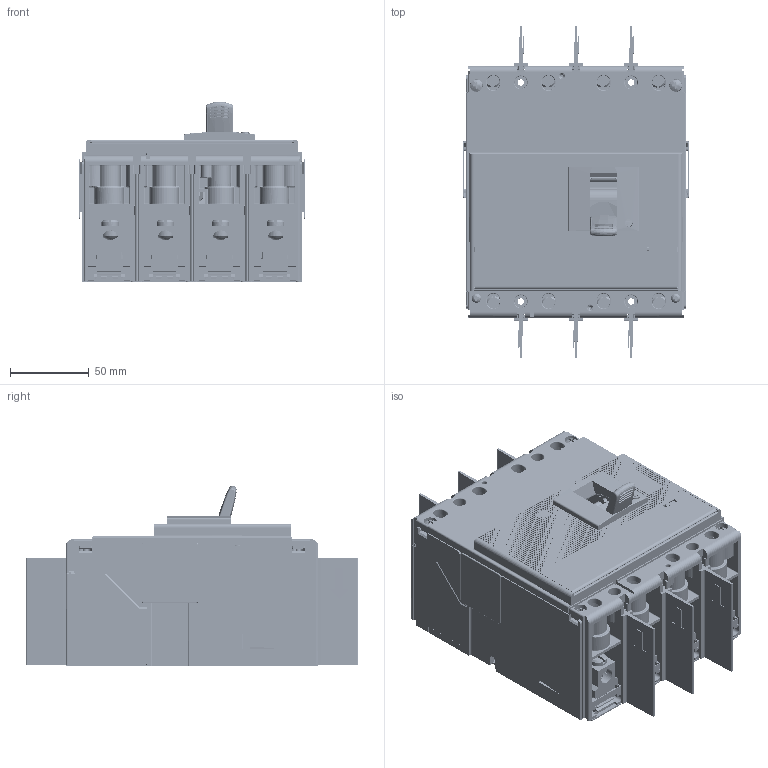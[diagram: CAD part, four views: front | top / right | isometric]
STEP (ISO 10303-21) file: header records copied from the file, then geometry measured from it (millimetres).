
FILE_DESCRIPTION((''),'2;1');
FILE_NAME('10000843568_ASM','2013-12-11T',('VSrinivas'),(''),'PRO/ENGINEER BY PARAMETRIC TECHNOLOGY CORPORATION, 2011330','PRO/ENGINEER BY PARAMETRIC TECHNOLOGY CORPORATION, 2011330','');
FILE_SCHEMA(('CONFIG_CONTROL_DESIGN'));
Products named in the file (7): 10000668165; 10000668166; 10000427940; 10000843544; 10000668167_ASM; 10000789713; 10000843568_ASM
Assembly tree (21 placements, depth 3):
  10000843568_ASM
    10000668167_ASM
      10000668165
      10000668166
      10000427940  x6
      10000843544  x4
    10000789713  x8
Bounding box: 144 x 210.62 x 114.52 mm (x, y, z)
Surface area: 601343.1 mm2 (no closed solid volume)
Topology: 0 solids, 71 shells, 25263 faces, 66553 edges, 43147 vertices
Faces by surface type: plane 19340, cylinder 4425, torus 586, sphere 457, cone 285, bspline 123, extrusion 47
Entity records: 754408 total; most frequent: CARTESIAN_POINT 159528, ORIENTED_EDGE 125446, DIRECTION 117091, EDGE_CURVE 62801, VECTOR 51639, LINE 51592, VERTEX_POINT 40930, AXIS2_PLACEMENT_3D 32726
